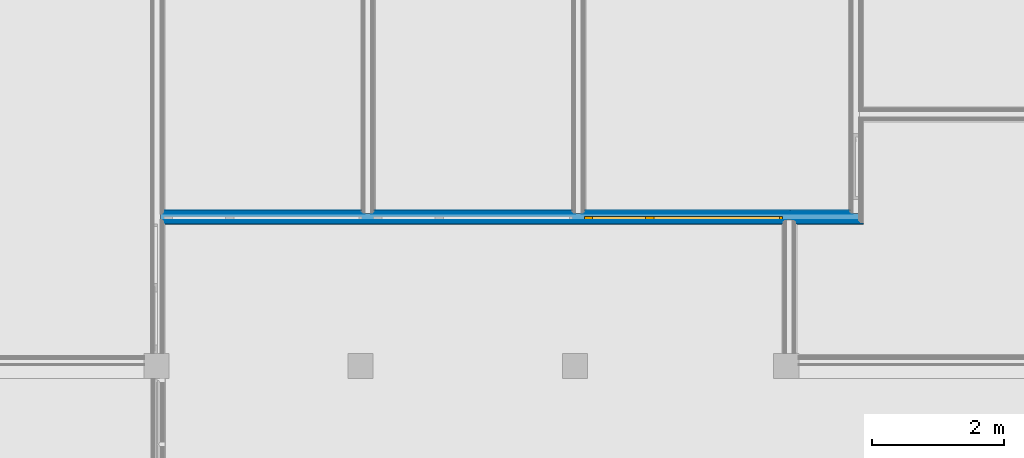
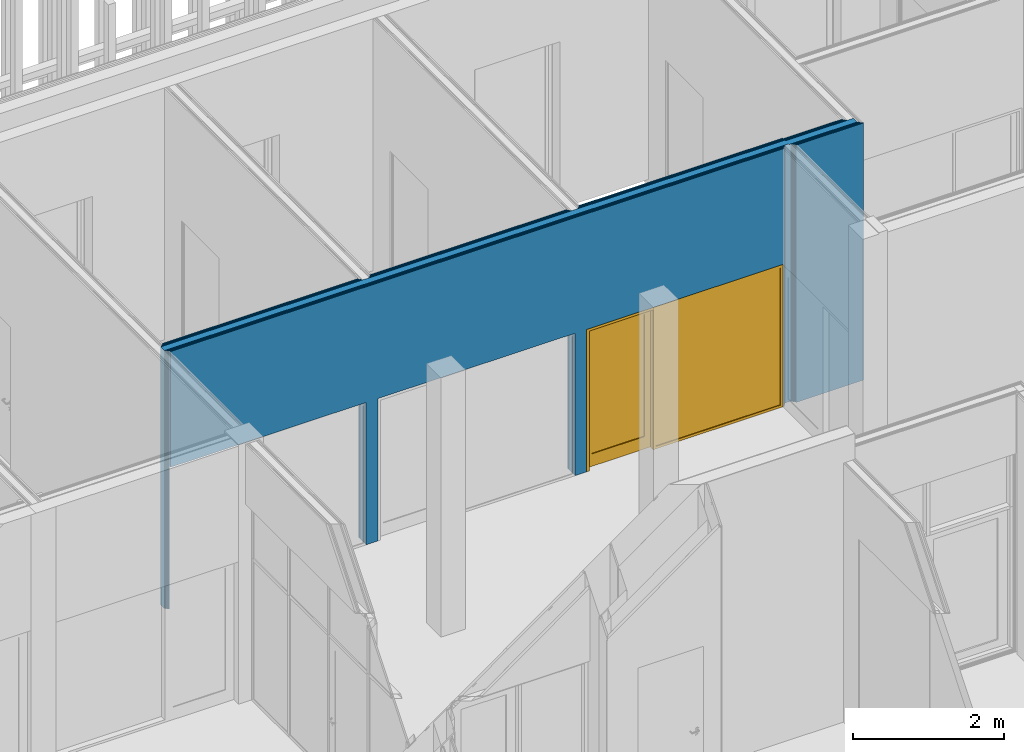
# One storey, part 216 of 260: 9 building element parts, 1 door, 3 openings, 1 element without a shape of its own.
"""IFC2X3 building model written with IfcOpenShell, lengths in millimetres."""

from ifc_helpers import new_model, entity, si_unit, converted_unit, derived_unit, money_unit, direction, frame, origin_with_axes, place, context, subcontext, project, spatial, open_shell, faceted_brep, surface_model, material, type_object, element, fill, aggregate, save


model = new_model("IFC2X3")

# Units and contexts
model_context = context("Model", 3, precision=0.01, world=origin_with_axes(), true_north=direction((0.0, 1.0)))
body_context = subcontext(model_context, "Body", "Model", "MODEL_VIEW")
ifc_project = project(units=[si_unit("LENGTHUNIT", "METRE", prefix="MILLI"), si_unit("AREAUNIT", "SQUARE_METRE"), si_unit("VOLUMEUNIT", "CUBIC_METRE"), converted_unit("PLANEANGLEUNIT", "DEGREE", entity("IfcPlaneAngleMeasure", 0.0174532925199), si_unit("PLANEANGLEUNIT", "RADIAN"), dimensions=[0, 0, 0, 0, 0, 0, 0]), money_unit("EUR"), converted_unit("TIMEUNIT", "Year", entity("IfcTimeMeasure", 31556926.0), si_unit("TIMEUNIT", "SECOND"), dimensions=[0, 0, 1, 0, 0, 0, 0]), si_unit("MASSUNIT", "GRAM", prefix="KILO"), si_unit("THERMODYNAMICTEMPERATUREUNIT", "DEGREE_CELSIUS"), si_unit("LUMINOUSINTENSITYUNIT", "LUMEN"), si_unit("ENERGYUNIT", "JOULE", prefix="MEGA"), derived_unit("THERMALCONDUCTANCEUNIT", [(si_unit("POWERUNIT", "WATT"), 1), (si_unit("LENGTHUNIT", "METRE"), -1), (si_unit("THERMODYNAMICTEMPERATUREUNIT", "KELVIN"), -1)]), derived_unit("SPECIFICHEATCAPACITYUNIT", [(si_unit("ENERGYUNIT", "JOULE"), 1), (si_unit("MASSUNIT", "GRAM", prefix="KILO"), -1), (si_unit("THERMODYNAMICTEMPERATUREUNIT", "KELVIN"), -1)]), derived_unit("MASSDENSITYUNIT", [(si_unit("MASSUNIT", "GRAM", prefix="KILO"), 1), (si_unit("VOLUMEUNIT", "CUBIC_METRE"), -1)])], contexts=[model_context])

# Site, building, storey
site_placement = place(None, origin_with_axes())
site = spatial("IfcSite", under=ifc_project, at=site_placement, Name="Kolde pst 67a", CompositionType="ELEMENT")
building_placement = place(site_placement, origin_with_axes())
building = spatial("IfcBuilding", under=site, at=building_placement, Name="Riigigümnaasium", CompositionType="ELEMENT")
storey_placement = place(building_placement, origin_with_axes())
storey = spatial("IfcBuildingStorey", under=building, at=storey_placement, Name="1. korrus", CompositionType="ELEMENT", Elevation=0.0)

# Door
door_style = type_object("IfcDoorStyle", Name="Door with Sidelight on Side 2 25", ConstructionType="NOTDEFINED", OperationType="SINGLE_SWING_LEFT", ParameterTakesPrecedence=False, Sizeable=False)
wall_placement = place(storey_placement, frame((66950.0301551, 30929.9996719, 0.0), z_axis=(0.0, 0.0, 1.0), x_axis=(1.0, 0.0, 0.0)))
opening_1_placement = place(wall_placement, frame((8079.97064144, 0.0, 0.0), z_axis=(0.0, 0.0, 1.0), x_axis=(1.0, 0.0, 0.0)))
door_placement = place(opening_1_placement, frame((-1500.0012665, 0.0, 0.0), z_axis=(0.0, 0.0, 1.0), x_axis=(1.0, 0.0, 0.0)))
door = element("IfcDoor", 1, at=door_placement, inside=storey, type_object=door_style, Name="Siseuks", ObjectType="DOOR", OverallHeight=2300.0, OverallWidth=3000.0, context=body_context, shape_type="SurfaceModel", body=[
    faceted_brep([(3000.00253301, 115.0, 0.0), (3000.00253301, 0.0, 0.0), (2960.00253301, 0.0, 0.0), (2960.00253301, 115.0, 0.0), (3000.00253301, 115.0, 2260.0), (3000.00253301, 0.0, 2260.0), (2960.00253301, 0.0, 2260.0), (2960.00253301, 0.0, 40.0), (2960.00253301, 115.0, 40.0), (2960.00253301, 115.0, 2260.0)], [[[0, 1, 2, 3]], [[4, 5, 1, 0]], [[1, 5, 6, 7, 2]], [[3, 2, 7, 8]], [[0, 3, 8, 9, 4]], [[9, 6, 5, 4]], [[8, 7, 6, 9]]]),
    faceted_brep([(1016.0, 75.0, 0.0), (1016.0, 0.0, 0.0), (1016.0, 0.0, 2260.0), (1016.0, 75.0, 2260.0), (1028.0, 75.0, 0.0), (1028.0, 115.0, 0.0), (1056.0, 115.0, 0.0), (1056.0, 0.0, 0.0), (1056.0, 0.0, 40.0), (1056.0, 0.0, 2260.0), (1028.0, 75.0, 2260.0), (1056.0, 115.0, 2260.0), (1028.0, 115.0, 2260.0), (1056.0, 115.0, 40.0)], [[[0, 1, 2, 3]], [[4, 5, 6, 7, 1, 0]], [[7, 8, 9, 2, 1]], [[10, 3, 2, 9, 11, 12]], [[10, 4, 0, 3]], [[12, 5, 4, 10]], [[12, 11, 13, 6, 5]], [[6, 13, 8, 7]], [[13, 11, 9, 8]]]),
    faceted_brep([(2960.00253301, 115.0, 40.0), (2960.00253301, 0.0, 40.0), (2960.00253301, 0.0, 0.0), (2960.00253301, 115.0, 0.0), (1056.0, 115.0, 40.0), (1056.0, 0.0, 40.0), (1056.0, 0.0, 0.0), (1056.0, 115.0, 0.0)], [[[0, 1, 2, 3]], [[4, 5, 1, 0]], [[1, 5, 6, 2]], [[3, 2, 6, 7]], [[0, 3, 7, 4]], [[7, 6, 5, 4]]]),
    faceted_brep([(28.0, 75.0, 2260.0), (28.0, 115.0, 2260.0), (0.0, 115.0, 2260.0), (0.0, 0.0, 2260.0), (40.0, 0.0, 2260.0), (40.0, 75.0, 2260.0), (28.0, 75.0, 0.0), (28.0, 115.0, 0.0), (0.0, 115.0, 0.0), (0.0, 0.0, 0.0), (40.0, 0.0, 0.0), (40.0, 75.0, 0.0)], [[[0, 1, 2, 3, 4, 5]], [[0, 6, 7, 1]], [[7, 8, 2, 1]], [[2, 8, 9, 3]], [[3, 9, 10, 4]], [[5, 4, 10, 11]], [[5, 11, 6, 0]], [[6, 11, 10, 9, 8, 7]]]),
    faceted_brep([(1028.0, 115.0, 2272.0), (28.0, 115.0, 2272.0), (28.0, 115.0, 2260.0), (0.0, 115.0, 2260.0), (0.0, 115.0, 2300.0), (3000.00253301, 115.0, 2300.0), (3000.00253301, 115.0, 2260.0), (2960.00253301, 115.0, 2260.0), (1056.0, 115.0, 2260.0), (1028.0, 115.0, 2260.0), (1028.0, 75.0, 2272.0), (28.0, 75.0, 2272.0), (28.0, 75.0, 2260.0), (40.0, 75.0, 2260.0), (40.0, 0.0, 2260.0), (0.0, 0.0, 2260.0), (0.0, 0.0, 2300.0), (3000.00253301, 0.0, 2300.0), (3000.00253301, 0.0, 2260.0), (2960.00253301, 0.0, 2260.0), (1056.0, 0.0, 2260.0), (1028.0, 75.0, 2260.0), (1016.0, 0.0, 2260.0)], [[[0, 1, 2, 3, 4, 5, 6, 7, 8, 9]], [[0, 10, 11, 1]], [[1, 11, 12, 2]], [[12, 13, 14, 15, 3, 2]], [[4, 3, 15, 16]], [[5, 4, 16, 17]], [[6, 5, 17, 18]], [[7, 6, 18, 19]], [[8, 7, 19, 20]], [[21, 9, 8, 20, 22, 14, 13]], [[9, 21, 10, 0]], [[12, 11, 10, 21, 13]], [[14, 22, 20, 19, 18, 17, 16, 15]]]),
    faceted_brep([(28.0, 115.0, 200.0), (128.0, 115.0, 200.0), (128.0, 75.0, 200.0), (28.0, 75.0, 200.0), (28.0, 115.0, 2172.0), (128.0, 115.0, 2172.0), (128.0, 75.0, 2172.0), (28.0, 75.0, 2172.0)], [[[0, 1, 2, 3]], [[0, 4, 5, 1]], [[1, 5, 6, 2]], [[3, 2, 6, 7]], [[4, 0, 3, 7]], [[5, 4, 7, 6]]]),
    faceted_brep([(1028.0, 115.0, 200.0), (1028.0, 115.0, 2172.0), (1028.0, 75.0, 2172.0), (1028.0, 75.0, 200.0), (928.0, 115.0, 200.0), (928.0, 115.0, 2172.0), (928.0, 75.0, 2172.0), (928.0, 75.0, 200.0)], [[[0, 1, 2, 3]], [[0, 4, 5, 1]], [[1, 5, 6, 2]], [[3, 2, 6, 7]], [[4, 0, 3, 7]], [[5, 4, 7, 6]]]),
    faceted_brep([(28.0, 115.0, 0.0), (1028.0, 115.0, 0.0), (1028.0, 75.0, 0.0), (28.0, 75.0, 0.0), (28.0, 115.0, 200.0), (128.0, 115.0, 200.0), (928.0, 115.0, 200.0), (1028.0, 115.0, 200.0), (1028.0, 75.0, 200.0), (928.0, 75.0, 200.0), (128.0, 75.0, 200.0), (28.0, 75.0, 200.0)], [[[0, 1, 2, 3]], [[0, 4, 5, 6, 7, 1]], [[1, 7, 8, 2]], [[3, 2, 8, 9, 10, 11]], [[4, 0, 3, 11]], [[5, 4, 11, 10]], [[6, 5, 10, 9]], [[7, 6, 9, 8]]]),
    faceted_brep([(28.0, 115.0, 2272.0), (28.0, 115.0, 2172.0), (28.0, 75.0, 2172.0), (28.0, 75.0, 2272.0), (1028.0, 115.0, 2272.0), (1028.0, 115.0, 2172.0), (928.0, 115.0, 2172.0), (128.0, 115.0, 2172.0), (128.0, 75.0, 2172.0), (928.0, 75.0, 2172.0), (1028.0, 75.0, 2172.0), (1028.0, 75.0, 2272.0)], [[[0, 1, 2, 3]], [[0, 4, 5, 6, 7, 1]], [[1, 7, 8, 2]], [[3, 2, 8, 9, 10, 11]], [[4, 0, 3, 11]], [[5, 4, 11, 10]], [[6, 5, 10, 9]], [[7, 6, 9, 8]]]),
    surface_model("IfcShellBasedSurfaceModel", [(128.0, 101.0, 200.0), (128.0, 101.0, 2172.0), (928.0, 101.0, 2172.0), (928.0, 101.0, 200.0)], [open_shell([[[0, 1, 2, 3]]])]),
    surface_model("IfcShellBasedSurfaceModel", [(128.0, 89.0, 200.0), (928.0, 89.0, 200.0), (928.0, 89.0, 2172.0), (128.0, 89.0, 2172.0)], [open_shell([[[0, 1, 2, 3]]])]),
    surface_model("IfcShellBasedSurfaceModel", [(2960.00253301, 24.0, 40.0), (1056.0, 24.0, 40.0), (1056.0, 24.0, 2260.0), (2960.00253301, 24.0, 2260.0)], [open_shell([[[0, 1, 2, 3]]])]),
    surface_model("IfcShellBasedSurfaceModel", [(2960.00253301, 12.0, 40.0), (2960.00253301, 12.0, 2260.0), (1056.0, 12.0, 2260.0), (1056.0, 12.0, 40.0)], [open_shell([[[0, 1, 2, 3]]])]),
])

# Wall, opening
wall_type = type_object("IfcWallType", Name="SS-PK-10/1_vill100+2dold 220", PredefinedType="NOTDEFINED")
wall = element("IfcWall", 2, at=wall_placement, inside=storey, type_object=wall_type, Name="Sisesein")
opening_1 = element("IfcOpeningElement", 3, at=opening_1_placement, cuts=wall, Name="Siseuks", context=body_context, shape_type="Brep", body=[
    faceted_brep([(-1500.0012665, -440.0, 0.0), (-1500.0012665, -440.0, 2300.0), (-1500.0012665, 220.0, 2300.0), (-1500.0012665, 220.0, 0.0), (1500.0012665, -440.0, 0.0), (1500.0012665, -440.0, 2300.0), (1500.0012665, 220.0, 2300.0), (1500.0012665, 220.0, 0.0)], [[[0, 1, 2, 3]], [[0, 4, 5, 1]], [[1, 5, 6, 2]], [[3, 2, 6, 7]], [[4, 0, 3, 7]], [[5, 4, 7, 6]]]),
])

fill(opening_1, door)

# Opening
opening_2_placement = place(wall_placement, frame((4894.50544559, 0.0, 0.0), z_axis=(0.0, 0.0, 1.0), x_axis=(1.0, 0.0, 0.0)))
element("IfcOpeningElement", 4, at=opening_2_placement, cuts=wall, Name="Siseuks", context=body_context, shape_type="Brep", body=[
    faceted_brep([(-1505.46392935, -440.0, 0.0), (-1505.46392935, -440.0, 2300.0), (-1505.46392935, 220.0, 2300.0), (-1505.46392935, 220.0, 0.0), (1505.46392935, -440.0, 0.0), (1505.46392935, -440.0, 2300.0), (1505.46392935, 220.0, 2300.0), (1505.46392935, 220.0, 0.0)], [[[0, 1, 2, 3]], [[0, 4, 5, 1]], [[1, 5, 6, 2]], [[3, 2, 6, 7]], [[4, 0, 3, 7]], [[5, 4, 7, 6]]]),
])

opening_3_placement = place(wall_placement, frame((1712.0911448, 0.0, 0.0), z_axis=(0.0, 0.0, 1.0), x_axis=(1.0, 0.0, 0.0)))
element("IfcOpeningElement", 5, at=opening_3_placement, cuts=wall, Name="Siseuks", context=body_context, shape_type="Brep", body=[
    faceted_brep([(-1498.09113464, -440.0, 0.0), (-1498.09113464, -440.0, 2300.0), (-1498.09113464, 220.0, 2300.0), (-1498.09113464, 220.0, 0.0), (1498.09113464, -440.0, 0.0), (1498.09113464, -440.0, 2300.0), (1498.09113464, 220.0, 2300.0), (1498.09113464, 220.0, 0.0)], [[[0, 1, 2, 3]], [[0, 4, 5, 1]], [[1, 5, 6, 2]], [[3, 2, 6, 7]], [[4, 0, 3, 7]], [[5, 4, 7, 6]]]),
])

# Building element part
ifc_material_1 = material(Name="_VIIMISTLUSKIHT - Dold plaat vastavalt SA osale")
building_element_part_1_placement = place(wall_placement, origin_with_axes())
building_element_part_1 = element("IfcBuildingElementPart", 6, at=building_element_part_1_placement, material=ifc_material_1, Name="_VIIMISTLUSKIHT - Dold plaat vastavalt SA osale", context=body_context, shape_type="Brep", body=[
    faceted_brep([(3210.18227943, 200.0, 2300.0), (3210.18227943, 220.0, 2300.0), (3210.18227943, 220.0, 4170.0), (3210.18227943, 200.0, 4170.0), (220.0, 220.0, 2300.0), (220.0, 200.0, 2300.0), (220.0, 220.0, 4170.0), (220.0, 200.0, 4170.0)], [[[0, 1, 2, 3]], [[4, 1, 0, 5]], [[1, 4, 6, 2]], [[2, 6, 7, 3]], [[5, 0, 3, 7]], [[4, 5, 7, 6]]]),
    faceted_brep([(6399.96937494, 200.0, 2300.0), (6399.96937494, 220.0, 2300.0), (6399.96937494, 220.0, 4170.0), (6399.96937494, 200.0, 4170.0), (3390.18227943, 220.0, 2300.0), (3390.18227943, 200.0, 2300.0), (3390.18227943, 220.0, 4170.0), (3390.18227943, 200.0, 4170.0)], [[[0, 1, 2, 3]], [[4, 1, 0, 5]], [[1, 4, 6, 2]], [[2, 6, 7, 3]], [[5, 0, 3, 7]], [[4, 5, 7, 6]]]),
    faceted_brep([(9579.97190795, 220.0, 2300.0), (6579.96937494, 220.0, 2300.0), (6579.96937494, 220.0, 4170.0), (9699.97190795, 220.0, 4170.0), (9699.97190795, 220.0, 4156.9), (10609.9611433, 220.0, 4156.9), (10609.9611433, 220.0, 0.0), (9579.97190795, 220.0, 0.0), (9579.97190795, 200.0, 2300.0), (6579.96937494, 200.0, 2300.0), (6579.96937494, 200.0, 4170.0), (9699.97190795, 200.0, 4170.0), (9699.97190795, 200.0, 4156.9), (10609.9611433, 200.0, 4156.9), (10609.9611433, 200.0, 0.0), (9579.97190795, 200.0, 0.0)], [[[0, 1, 2, 3, 4, 5, 6, 7]], [[1, 0, 8, 9]], [[1, 9, 10, 2]], [[3, 2, 10, 11]], [[3, 11, 12, 4]], [[5, 4, 12, 13]], [[13, 14, 6, 5]], [[15, 7, 6, 14]], [[0, 7, 15, 8]], [[8, 15, 14, 13, 12, 11, 10, 9]]]),
])

ifc_material_2 = material(Name="_KARKASS - eriprofiilkinnitus vastavalt sisemisele plaatviimistlusele")
building_element_part_2_placement = place(wall_placement, origin_with_axes())
building_element_part_2 = element("IfcBuildingElementPart", 7, at=building_element_part_2_placement, material=ifc_material_2, Name="_KARKASS - eriprofiilkinnitus vastavalt sisemisele plaatviimistlusele", context=body_context, shape_type="Brep", body=[
    faceted_brep([(214.000010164, 200.0, 2300.0), (214.000010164, 200.0, 0.0), (200.0, 200.0, 0.0), (200.0, 200.0, 4170.0), (3220.18227943, 200.0, 4170.0), (3220.18227943, 200.0, 0.0), (3210.18227943, 200.0, 0.0), (3210.18227943, 200.0, 2300.0), (214.000010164, 190.0, 2300.0), (214.000010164, 190.0, 0.0), (200.0, 190.0, 0.0), (200.0, 190.0, 4170.0), (3220.18227943, 190.0, 4170.0), (3220.18227943, 190.0, 0.0), (3210.18227943, 190.0, 0.0), (3210.18227943, 190.0, 2300.0)], [[[0, 1, 2, 3, 4, 5, 6, 7]], [[1, 0, 8, 9]], [[1, 9, 10, 2]], [[3, 2, 10, 11]], [[4, 3, 11, 12]], [[12, 13, 5, 4]], [[14, 6, 5, 13]], [[7, 6, 14, 15]], [[0, 7, 15, 8]], [[15, 14, 13, 12, 11, 10, 9, 8]]]),
    faceted_brep([(3389.04151625, 200.0, 2300.0), (3389.04151625, 200.0, 0.0), (3380.18227943, 200.0, 0.0), (3380.18227943, 200.0, 4170.0), (6409.96937494, 200.0, 4170.0), (6409.96937494, 200.0, 0.0), (6399.96937494, 200.0, 0.0), (6399.96937494, 200.0, 2300.0), (3389.04151625, 190.0, 2300.0), (3389.04151625, 190.0, 0.0), (3380.18227943, 190.0, 0.0), (3380.18227943, 190.0, 4170.0), (6409.96937494, 190.0, 4170.0), (6409.96937494, 190.0, 0.0), (6399.96937494, 190.0, 0.0), (6399.96937494, 190.0, 2300.0)], [[[0, 1, 2, 3, 4, 5, 6, 7]], [[1, 0, 8, 9]], [[1, 9, 10, 2]], [[3, 2, 10, 11]], [[4, 3, 11, 12]], [[12, 13, 5, 4]], [[14, 6, 5, 13]], [[7, 6, 14, 15]], [[0, 7, 15, 8]], [[15, 14, 13, 12, 11, 10, 9, 8]]]),
    faceted_brep([(6579.96937494, 200.0, 2300.0), (6579.96937494, 200.0, 0.0), (6569.96937494, 200.0, 0.0), (6569.96937494, 200.0, 4170.0), (9699.97190795, 200.0, 4170.0), (9699.97190795, 200.0, 4156.9), (10619.9611433, 200.0, 4156.9), (10619.9611433, 200.0, 0.0), (9579.97190795, 200.0, 0.0), (9579.97190795, 200.0, 2300.0), (6579.96937494, 190.0, 2300.0), (6579.96937494, 190.0, 0.0), (6569.96937494, 190.0, 0.0), (6569.96937494, 190.0, 4170.0), (9699.97190795, 190.0, 4170.0), (9699.97190795, 190.0, 4156.9), (10619.9611433, 190.0, 4156.9), (10619.9611433, 190.0, 0.0), (9579.97190795, 190.0, 0.0), (9579.97190795, 190.0, 2300.0)], [[[0, 1, 2, 3, 4, 5, 6, 7, 8, 9]], [[1, 0, 10, 11]], [[1, 11, 12, 2]], [[3, 2, 12, 13]], [[4, 3, 13, 14]], [[4, 14, 15, 5]], [[6, 5, 15, 16]], [[16, 17, 7, 6]], [[18, 8, 7, 17]], [[9, 8, 18, 19]], [[0, 9, 19, 10]], [[19, 18, 17, 16, 15, 14, 13, 12, 11, 10]]]),
])

ifc_material_3 = material(Name="_PLAATMATERJAL - tuletõkkekipsplaat, Knauf Red GKF või samaväärne")
building_element_part_3_placement = place(wall_placement, origin_with_axes())
building_element_part_3 = element("IfcBuildingElementPart", 8, at=building_element_part_3_placement, material=ifc_material_3, Name="_PLAATMATERJAL - tuletõkkekipsplaat, Knauf Red GKF või samaväärne", context=body_context, shape_type="Brep", body=[
    faceted_brep([(214.000010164, 190.0, 2300.0), (214.000010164, 190.0, 0.0), (190.0, 190.0, 0.0), (190.0, 190.0, 4170.0), (3235.18227943, 190.0, 4170.0), (3235.18227943, 190.0, 0.0), (3210.18227943, 190.0, 0.0), (3210.18227943, 190.0, 2300.0), (214.000010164, 175.0, 2300.0), (214.000010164, 175.0, 0.0), (190.0, 175.0, 0.0), (190.0, 175.0, 4170.0), (3235.18227943, 175.0, 4170.0), (3235.18227943, 175.0, 0.0), (3210.18227943, 175.0, 0.0), (3210.18227943, 175.0, 2300.0)], [[[0, 1, 2, 3, 4, 5, 6, 7]], [[1, 0, 8, 9]], [[1, 9, 10, 2]], [[3, 2, 10, 11]], [[4, 3, 11, 12]], [[12, 13, 5, 4]], [[14, 6, 5, 13]], [[7, 6, 14, 15]], [[0, 7, 15, 8]], [[15, 14, 13, 12, 11, 10, 9, 8]]]),
    faceted_brep([(3389.04151625, 190.0, 2300.0), (3389.04151625, 190.0, 0.0), (3365.18227943, 190.0, 0.0), (3365.18227943, 190.0, 4170.0), (6424.96937494, 190.0, 4170.0), (6424.96937494, 190.0, 0.0), (6399.96937494, 190.0, 0.0), (6399.96937494, 190.0, 2300.0), (3389.04151625, 175.0, 2300.0), (3389.04151625, 175.0, 0.0), (3365.18227943, 175.0, 0.0), (3365.18227943, 175.0, 4170.0), (6424.96937494, 175.0, 4170.0), (6424.96937494, 175.0, 0.0), (6399.96937494, 175.0, 0.0), (6399.96937494, 175.0, 2300.0)], [[[0, 1, 2, 3, 4, 5, 6, 7]], [[1, 0, 8, 9]], [[1, 9, 10, 2]], [[3, 2, 10, 11]], [[4, 3, 11, 12]], [[12, 13, 5, 4]], [[14, 6, 5, 13]], [[7, 6, 14, 15]], [[0, 7, 15, 8]], [[15, 14, 13, 12, 11, 10, 9, 8]]]),
    faceted_brep([(6579.96937494, 190.0, 2300.0), (6579.96937494, 190.0, 0.0), (6554.96937494, 190.0, 0.0), (6554.96937494, 190.0, 4170.0), (9699.97190795, 190.0, 4170.0), (9699.97190795, 190.0, 4156.9), (10634.9611433, 190.0, 4156.9), (10634.9611433, 190.0, 0.0), (9579.97190795, 190.0, 0.0), (9579.97190795, 190.0, 2300.0), (6579.96937494, 175.0, 2300.0), (6579.96937494, 175.0, 0.0), (6554.96937494, 175.0, 0.0), (6554.96937494, 175.0, 4170.0), (9699.97190795, 175.0, 4170.0), (9699.97190795, 175.0, 4156.9), (10634.9611433, 175.0, 4156.9), (10634.9611433, 175.0, 0.0), (9579.97190795, 175.0, 0.0), (9579.97190795, 175.0, 2300.0)], [[[0, 1, 2, 3, 4, 5, 6, 7, 8, 9]], [[1, 0, 10, 11]], [[1, 11, 12, 2]], [[3, 2, 12, 13]], [[4, 3, 13, 14]], [[4, 14, 15, 5]], [[6, 5, 15, 16]], [[16, 17, 7, 6]], [[18, 8, 7, 17]], [[9, 8, 18, 19]], [[0, 9, 19, 10]], [[19, 18, 17, 16, 15, 14, 13, 12, 11, 10]]]),
])

building_element_part_4_placement = place(wall_placement, origin_with_axes())
building_element_part_4 = element("IfcBuildingElementPart", 9, at=building_element_part_4_placement, material=ifc_material_3, Name="_PLAATMATERJAL - tuletõkkekipsplaat, Knauf Red GKF või samaväärne", context=body_context, shape_type="Brep", body=[
    faceted_brep([(214.000010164, 175.0, 2300.0), (214.000010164, 175.0, 0.0), (175.0, 175.0, 0.0), (175.0, 175.0, 4170.0), (3250.18227943, 175.0, 4170.0), (3250.18227943, 175.0, 0.0), (3210.18227943, 175.0, 0.0), (3210.18227943, 175.0, 2300.0), (214.000010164, 160.0, 2300.0), (214.000010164, 160.0, 0.0), (175.0, 160.0, 0.0), (175.0, 160.0, 4170.0), (3250.18227943, 160.0, 4170.0), (3250.18227943, 160.0, 0.0), (3210.18227943, 160.0, 0.0), (3210.18227943, 160.0, 2300.0)], [[[0, 1, 2, 3, 4, 5, 6, 7]], [[1, 0, 8, 9]], [[1, 9, 10, 2]], [[3, 2, 10, 11]], [[4, 3, 11, 12]], [[12, 13, 5, 4]], [[14, 6, 5, 13]], [[7, 6, 14, 15]], [[0, 7, 15, 8]], [[15, 14, 13, 12, 11, 10, 9, 8]]]),
    faceted_brep([(3389.04151625, 175.0, 2300.0), (3389.04151625, 175.0, 0.0), (3350.18227943, 175.0, 0.0), (3350.18227943, 175.0, 4170.0), (6439.96937494, 175.0, 4170.0), (6439.96937494, 175.0, 0.0), (6399.96937494, 175.0, 0.0), (6399.96937494, 175.0, 2300.0), (3389.04151625, 160.0, 2300.0), (3389.04151625, 160.0, 0.0), (3350.18227943, 160.0, 0.0), (3350.18227943, 160.0, 4170.0), (6439.96937494, 160.0, 4170.0), (6439.96937494, 160.0, 0.0), (6399.96937494, 160.0, 0.0), (6399.96937494, 160.0, 2300.0)], [[[0, 1, 2, 3, 4, 5, 6, 7]], [[1, 0, 8, 9]], [[1, 9, 10, 2]], [[3, 2, 10, 11]], [[4, 3, 11, 12]], [[12, 13, 5, 4]], [[14, 6, 5, 13]], [[7, 6, 14, 15]], [[0, 7, 15, 8]], [[15, 14, 13, 12, 11, 10, 9, 8]]]),
    faceted_brep([(6579.96937494, 175.0, 2300.0), (6579.96937494, 175.0, 0.0), (6539.96937494, 175.0, 0.0), (6539.96937494, 175.0, 4170.0), (9699.97190795, 175.0, 4170.0), (9699.97190795, 175.0, 4156.9), (10649.9611433, 175.0, 4156.9), (10649.9611433, 175.0, 0.0), (9579.97190795, 175.0, 0.0), (9579.97190795, 175.0, 2300.0), (6579.96937494, 160.0, 2300.0), (6579.96937494, 160.0, 0.0), (6539.96937494, 160.0, 0.0), (6539.96937494, 160.0, 4170.0), (9699.97190795, 160.0, 4170.0), (9699.97190795, 160.0, 4156.9), (10649.9611433, 160.0, 4156.9), (10649.9611433, 160.0, 0.0), (9579.97190795, 160.0, 0.0), (9579.97190795, 160.0, 2300.0)], [[[0, 1, 2, 3, 4, 5, 6, 7, 8, 9]], [[1, 0, 10, 11]], [[1, 11, 12, 2]], [[3, 2, 12, 13]], [[4, 3, 13, 14]], [[4, 14, 15, 5]], [[6, 5, 15, 16]], [[16, 17, 7, 6]], [[18, 8, 7, 17]], [[9, 8, 18, 19]], [[0, 9, 19, 10]], [[19, 18, 17, 16, 15, 14, 13, 12, 11, 10]]]),
])

ifc_material_4 = material(Name="_KARKASS - puitpruss 100x50mm vertikaalne, samm 600mm, vahel mineraalvill, helineeldetegur αw = 1.0, ISOVER ACOUSTIC 100mm või samaväärne")
building_element_part_5_placement = place(wall_placement, origin_with_axes())
building_element_part_5 = element("IfcBuildingElementPart", 10, at=building_element_part_5_placement, material=ifc_material_4, Name="_KARKASS - puitpruss 100x50mm vertikaalne, samm 600mm, vahel mineraalvill, helineeldetegur αw = 1.0, ISOVER ACOUSTIC 100mm või samaväärne", context=body_context, shape_type="Brep", body=[
    faceted_brep([(214.000010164, 160.0, 2300.0), (214.000010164, 160.0, 0.0), (160.0, 160.0, 0.0), (160.0, 160.0, 4170.0), (9699.97190795, 160.0, 4170.0), (9699.97190795, 160.0, 4156.9), (10749.9611433, 160.0, 4156.9), (10749.9611433, 160.0, 0.0), (9579.97190795, 160.0, 0.0), (9579.97190795, 160.0, 2300.0), (6579.96937494, 160.0, 2300.0), (6579.96937494, 160.0, 0.0), (6399.96937494, 160.0, 0.0), (6399.96937494, 160.0, 2300.0), (3389.04151625, 160.0, 2300.0), (3389.04151625, 160.0, 0.0), (3210.18227943, 160.0, 0.0), (3210.18227943, 160.0, 2300.0), (214.000010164, 60.0, 2300.0), (214.000010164, 60.0, 0.0), (160.0, 60.0, 0.0), (160.0, 60.0, 4170.0), (9699.97190795, 60.0, 4170.0), (9699.97190795, 60.0, 4156.9), (10749.9611433, 60.0, 4156.9), (10749.9611433, 60.0, 0.0), (9579.97190795, 60.0, 0.0), (9579.97190795, 60.0, 2300.0), (6579.96937494, 60.0, 2300.0), (6579.96937494, 60.0, 0.0), (6399.96937494, 60.0, 0.0), (6399.96937494, 60.0, 2300.0), (3389.04151625, 60.0, 2300.0), (3389.04151625, 60.0, 0.0), (3210.18227943, 60.0, 0.0), (3210.18227943, 60.0, 2300.0)], [[[0, 1, 2, 3, 4, 5, 6, 7, 8, 9, 10, 11, 12, 13, 14, 15, 16, 17]], [[1, 0, 18, 19]], [[1, 19, 20, 2]], [[20, 21, 3, 2]], [[21, 22, 4, 3]], [[23, 5, 4, 22]], [[23, 24, 6, 5]], [[7, 6, 24, 25]], [[7, 25, 26, 8]], [[26, 27, 9, 8]], [[27, 28, 10, 9]], [[28, 29, 11, 10]], [[12, 11, 29, 30]], [[12, 30, 31, 13]], [[13, 31, 32, 14]], [[14, 32, 33, 15]], [[34, 16, 15, 33]], [[17, 16, 34, 35]], [[0, 17, 35, 18]], [[35, 34, 33, 32, 31, 30, 29, 28, 27, 26, 25, 24, 23, 22, 21, 20, 19, 18]]]),
])

building_element_part_6_placement = place(wall_placement, origin_with_axes())
building_element_part_6 = element("IfcBuildingElementPart", 11, at=building_element_part_6_placement, material=ifc_material_3, Name="_PLAATMATERJAL - tuletõkkekipsplaat, Knauf Red GKF või samaväärne", context=body_context, shape_type="Brep", body=[
    faceted_brep([(9739.97190795, 60.0, 4156.9), (10764.9611433, 60.0, 4156.9), (10764.9611433, 60.0, 0.0), (9739.97190795, 60.0, 0.0), (10764.9611433, 45.0, 4156.9), (9739.97190795, 45.0, 4156.9), (10764.9611433, 45.0, 0.0), (9739.97190795, 45.0, 0.0)], [[[0, 1, 2, 3]], [[4, 1, 0, 5]], [[1, 4, 6, 2]], [[2, 6, 7, 3]], [[5, 0, 3, 7]], [[4, 5, 7, 6]]]),
    faceted_brep([(214.000010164, 60.0, 2300.0), (214.000010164, 60.0, 0.0), (175.0, 60.0, 0.0), (175.0, 60.0, 4170.0), (9639.97190795, 60.0, 4170.0), (9639.97190795, 60.0, 0.0), (9579.97190795, 60.0, 0.0), (9579.97190795, 60.0, 2300.0), (6579.96937494, 60.0, 2300.0), (6579.96937494, 60.0, 0.0), (6399.96937494, 60.0, 0.0), (6399.96937494, 60.0, 2300.0), (3389.04151625, 60.0, 2300.0), (3389.04151625, 60.0, 0.0), (3210.18227943, 60.0, 0.0), (3210.18227943, 60.0, 2300.0), (214.000010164, 45.0, 2300.0), (214.000010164, 45.0, 0.0), (175.0, 45.0, 0.0), (175.0, 45.0, 4170.0), (9639.97190795, 45.0, 4170.0), (9639.97190795, 45.0, 0.0), (9579.97190795, 45.0, 0.0), (9579.97190795, 45.0, 2300.0), (6579.96937494, 45.0, 2300.0), (6579.96937494, 45.0, 0.0), (6399.96937494, 45.0, 0.0), (6399.96937494, 45.0, 2300.0), (3389.04151625, 45.0, 2300.0), (3389.04151625, 45.0, 0.0), (3210.18227943, 45.0, 0.0), (3210.18227943, 45.0, 2300.0)], [[[0, 1, 2, 3, 4, 5, 6, 7, 8, 9, 10, 11, 12, 13, 14, 15]], [[1, 0, 16, 17]], [[1, 17, 18, 2]], [[18, 19, 3, 2]], [[19, 20, 4, 3]], [[5, 4, 20, 21]], [[5, 21, 22, 6]], [[22, 23, 7, 6]], [[23, 24, 8, 7]], [[24, 25, 9, 8]], [[10, 9, 25, 26]], [[10, 26, 27, 11]], [[11, 27, 28, 12]], [[12, 28, 29, 13]], [[30, 14, 13, 29]], [[15, 14, 30, 31]], [[0, 15, 31, 16]], [[31, 30, 29, 28, 27, 26, 25, 24, 23, 22, 21, 20, 19, 18, 17, 16]]]),
])

building_element_part_7_placement = place(wall_placement, origin_with_axes())
building_element_part_7 = element("IfcBuildingElementPart", 12, at=building_element_part_7_placement, material=ifc_material_3, Name="_PLAATMATERJAL - tuletõkkekipsplaat, Knauf Red GKF või samaväärne", context=body_context, shape_type="Brep", body=[
    faceted_brep([(9754.97190795, 45.0, 4156.9), (10779.9611433, 45.0, 4156.9), (10779.9611433, 45.0, 0.0), (9754.97190795, 45.0, 0.0), (10779.9611433, 30.0, 4156.9), (9754.97190795, 30.0, 4156.9), (10779.9611433, 30.0, 0.0), (9754.97190795, 30.0, 0.0)], [[[0, 1, 2, 3]], [[4, 1, 0, 5]], [[1, 4, 6, 2]], [[2, 6, 7, 3]], [[5, 0, 3, 7]], [[4, 5, 7, 6]]]),
    faceted_brep([(214.000010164, 45.0, 2300.0), (214.000010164, 45.0, 0.0), (190.0, 45.0, 0.0), (190.0, 45.0, 4170.0), (9624.97190795, 45.0, 4170.0), (9624.97190795, 45.0, 0.0), (9579.97190795, 45.0, 0.0), (9579.97190795, 45.0, 2300.0), (6579.96937494, 45.0, 2300.0), (6579.96937494, 45.0, 0.0), (6399.96937494, 45.0, 0.0), (6399.96937494, 45.0, 2300.0), (3389.04151625, 45.0, 2300.0), (3389.04151625, 45.0, 0.0), (3210.18227943, 45.0, 0.0), (3210.18227943, 45.0, 2300.0), (214.000010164, 30.0, 2300.0), (214.000010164, 30.0, 0.0), (190.0, 30.0, 0.0), (190.0, 30.0, 4170.0), (9624.97190795, 30.0, 4170.0), (9624.97190795, 30.0, 0.0), (9579.97190795, 30.0, 0.0), (9579.97190795, 30.0, 2300.0), (6579.96937494, 30.0, 2300.0), (6579.96937494, 30.0, 0.0), (6399.96937494, 30.0, 0.0), (6399.96937494, 30.0, 2300.0), (3389.04151625, 30.0, 2300.0), (3389.04151625, 30.0, 0.0), (3210.18227943, 30.0, 0.0), (3210.18227943, 30.0, 2300.0)], [[[0, 1, 2, 3, 4, 5, 6, 7, 8, 9, 10, 11, 12, 13, 14, 15]], [[1, 0, 16, 17]], [[1, 17, 18, 2]], [[18, 19, 3, 2]], [[19, 20, 4, 3]], [[5, 4, 20, 21]], [[5, 21, 22, 6]], [[22, 23, 7, 6]], [[23, 24, 8, 7]], [[24, 25, 9, 8]], [[10, 9, 25, 26]], [[10, 26, 27, 11]], [[11, 27, 28, 12]], [[12, 28, 29, 13]], [[30, 14, 13, 29]], [[15, 14, 30, 31]], [[0, 15, 31, 16]], [[31, 30, 29, 28, 27, 26, 25, 24, 23, 22, 21, 20, 19, 18, 17, 16]]]),
])

building_element_part_8_placement = place(wall_placement, origin_with_axes())
building_element_part_8 = element("IfcBuildingElementPart", 13, at=building_element_part_8_placement, material=ifc_material_2, Name="_KARKASS - eriprofiilkinnitus vastavalt sisemisele plaatviimistlusele", context=body_context, shape_type="Brep", body=[
    faceted_brep([(9769.97190795, 30.0, 4156.9), (10789.9611433, 30.0, 4156.9), (10789.9611433, 30.0, 0.0), (9769.97190795, 30.0, 0.0), (10789.9611433, 20.0, 4156.9), (9769.97190795, 20.0, 4156.9), (10789.9611433, 20.0, 0.0), (9769.97190795, 20.0, 0.0)], [[[0, 1, 2, 3]], [[4, 1, 0, 5]], [[1, 4, 6, 2]], [[2, 6, 7, 3]], [[5, 0, 3, 7]], [[4, 5, 7, 6]]]),
    faceted_brep([(214.000010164, 30.0, 2300.0), (214.000010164, 30.0, 0.0), (200.0, 30.0, 0.0), (200.0, 30.0, 4170.0), (9609.97190795, 30.0, 4170.0), (9609.97190795, 30.0, 0.0), (9579.97190795, 30.0, 0.0), (9579.97190795, 30.0, 2300.0), (6579.96937494, 30.0, 2300.0), (6579.96937494, 30.0, 0.0), (6399.96937494, 30.0, 0.0), (6399.96937494, 30.0, 2300.0), (3389.04151625, 30.0, 2300.0), (3389.04151625, 30.0, 0.0), (3210.18227943, 30.0, 0.0), (3210.18227943, 30.0, 2300.0), (214.000010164, 20.0, 2300.0), (214.000010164, 20.0, 0.0), (200.0, 20.0, 0.0), (200.0, 20.0, 4170.0), (9609.97190795, 20.0, 4170.0), (9609.97190795, 20.0, 0.0), (9579.97190795, 20.0, 0.0), (9579.97190795, 20.0, 2300.0), (6579.96937494, 20.0, 2300.0), (6579.96937494, 20.0, 0.0), (6399.96937494, 20.0, 0.0), (6399.96937494, 20.0, 2300.0), (3389.04151625, 20.0, 2300.0), (3389.04151625, 20.0, 0.0), (3210.18227943, 20.0, 0.0), (3210.18227943, 20.0, 2300.0)], [[[0, 1, 2, 3, 4, 5, 6, 7, 8, 9, 10, 11, 12, 13, 14, 15]], [[1, 0, 16, 17]], [[1, 17, 18, 2]], [[18, 19, 3, 2]], [[19, 20, 4, 3]], [[5, 4, 20, 21]], [[5, 21, 22, 6]], [[22, 23, 7, 6]], [[23, 24, 8, 7]], [[24, 25, 9, 8]], [[10, 9, 25, 26]], [[10, 26, 27, 11]], [[11, 27, 28, 12]], [[12, 28, 29, 13]], [[30, 14, 13, 29]], [[15, 14, 30, 31]], [[0, 15, 31, 16]], [[31, 30, 29, 28, 27, 26, 25, 24, 23, 22, 21, 20, 19, 18, 17, 16]]]),
])

building_element_part_9_placement = place(wall_placement, origin_with_axes())
building_element_part_9 = element("IfcBuildingElementPart", 14, at=building_element_part_9_placement, material=ifc_material_1, Name="_VIIMISTLUSKIHT - Dold plaat vastavalt SA osale", context=body_context, shape_type="Brep", body=[
    faceted_brep([(9779.97190795, 20.0, 4156.9), (10809.9611433, 20.0, 4156.9), (10809.9611433, 20.0, 0.0), (9779.97190795, 20.0, 0.0), (10809.9611433, 0.0, 4156.9), (9779.97190795, 0.0, 4156.9), (10809.9611433, 0.0, 0.0), (9779.97190795, 0.0, 0.0)], [[[0, 1, 2, 3]], [[4, 1, 0, 5]], [[1, 4, 6, 2]], [[2, 6, 7, 3]], [[5, 0, 3, 7]], [[4, 5, 7, 6]]]),
    faceted_brep([(3210.18227943, 20.0, 2300.0), (220.0, 20.0, 2300.0), (220.0, 20.0, 4170.0), (9599.97190795, 20.0, 4170.0), (9599.97190795, 20.0, 0.0), (9579.97190795, 20.0, 0.0), (9579.97190795, 20.0, 2300.0), (6579.96937494, 20.0, 2300.0), (6579.96937494, 20.0, 0.0), (6399.96937494, 20.0, 0.0), (6399.96937494, 20.0, 2300.0), (3389.04151625, 20.0, 2300.0), (3389.04151625, 20.0, 0.0), (3210.18227943, 20.0, 0.0), (3210.18227943, 0.0, 2300.0), (220.0, 0.0, 2300.0), (220.0, 0.0, 4170.0), (9599.97190795, 0.0, 4170.0), (9599.97190795, 0.0, 0.0), (9579.97190795, 0.0, 0.0), (9579.97190795, 0.0, 2300.0), (6579.96937494, 0.0, 2300.0), (6579.96937494, 0.0, 0.0), (6399.96937494, 0.0, 0.0), (6399.96937494, 0.0, 2300.0), (3389.04151625, 0.0, 2300.0), (3389.04151625, 0.0, 0.0), (3210.18227943, 0.0, 0.0)], [[[0, 1, 2, 3, 4, 5, 6, 7, 8, 9, 10, 11, 12, 13]], [[1, 0, 14, 15]], [[1, 15, 16, 2]], [[16, 17, 3, 2]], [[4, 3, 17, 18]], [[4, 18, 19, 5]], [[19, 20, 6, 5]], [[20, 21, 7, 6]], [[21, 22, 8, 7]], [[9, 8, 22, 23]], [[9, 23, 24, 10]], [[10, 24, 25, 11]], [[11, 25, 26, 12]], [[27, 13, 12, 26]], [[0, 13, 27, 14]], [[14, 27, 26, 25, 24, 23, 22, 21, 20, 19, 18, 17, 16, 15]]]),
])

aggregate(wall, [building_element_part_1, building_element_part_2, building_element_part_3, building_element_part_4, building_element_part_5, building_element_part_6, building_element_part_7, building_element_part_8, building_element_part_9])

save(model, "model.ifc")
